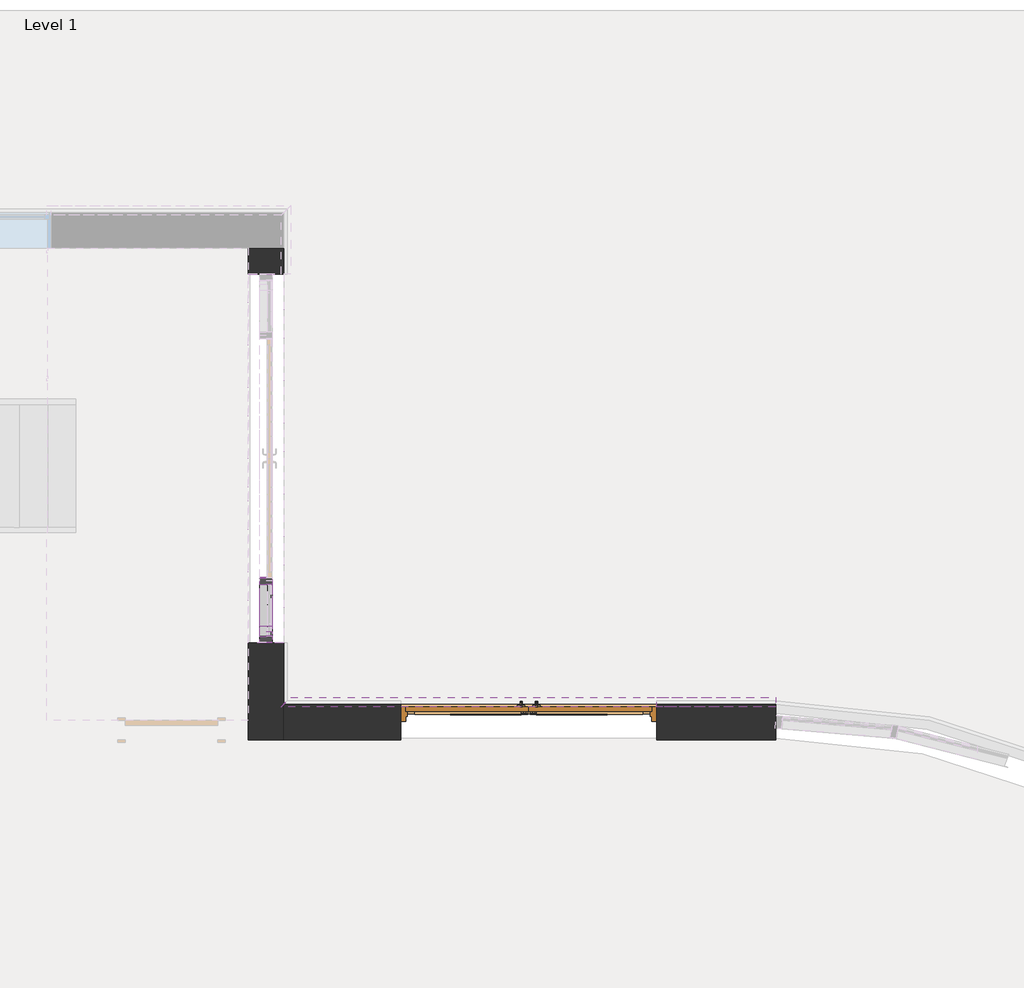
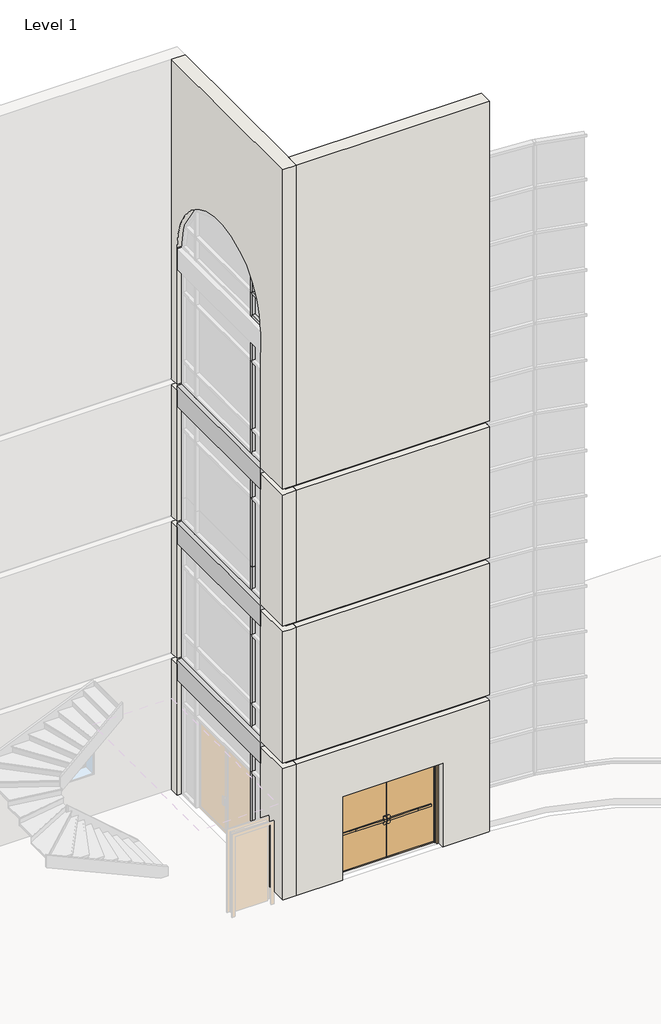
# One storey, part 11 of 20: 30 members, 3 plates, 3 proxies, 2 walls, 1 door.
"""IFC4 building model written with IfcOpenShell, lengths in millimetres."""

from ifc_helpers import new_model, si_unit, frame, origin, place, context, project, spatial, polyline, circle_curve, outline, extrude, faceted_brep, transform, mapped, element, save
from ifc_brep_helpers import plane_surface, revolved_surface, advanced_brep
from components import door_d5635643, member_f0fea5a5, member_ee409385, member_51170729, member_d60e8053, member_a025723f, member_aaa03826, member_47a645d3, member_cceb8e04, member_b7f7ac7a, member_94fbf6e3, member_0b7646a3, member_dad99500, member_2fae0574

model = new_model("IFC4")

# Units and contexts
model_context = context("Model", 3, world=origin())
ifc_project = project(units=[si_unit("LENGTHUNIT", "METRE", prefix="MILLI")], contexts=[model_context])

# Site, building, storey
site = spatial("IfcSite", under=ifc_project)
building = spatial("IfcBuilding", under=site)
storey = spatial("IfcBuildingStorey", under=building, Name="Level 1", Elevation=0.0)

# Proxies
placement = place(None, origin())
element("IfcBuildingElementProxy", 1, Name="Reveals", at=placement, inside=storey, context=model_context, shape_type="SweptSolid", body=[
    extrude(outline(polyline([(16760.0089721, 4783.9898319), (16760.0089721, 4876.0648319), (17937.9339721, 4876.0648319), (17937.9339721, 4783.9898319), (16760.0089721, 4783.9898319)])), frame((0.0, 0.0, 1625.6), z_axis=(0.0, 0.0, 1.0), x_axis=(1.0, 0.0, 0.0)), (0.0, 0.0, 1.0), 67.7333333),
    extrude(outline(polyline([(13035.7339721, 4783.9898319), (13127.8089721, 4876.0648319), (14220.0089721, 4876.0648319), (14220.0089721, 4783.9898319), (13035.7339721, 4783.9898319)])), frame((0.0, 0.0, 1625.6), z_axis=(0.0, 0.0, 1.0), x_axis=(1.0, 0.0, 0.0)), (0.0, 0.0, 1.0), 67.7333333),
])
element("IfcBuildingElementProxy", 2, Name="Reveals", at=placement, inside=storey, context=model_context, shape_type="SweptSolid", body=[
    extrude(outline(polyline([(13035.7339721, 4783.9898319), (13127.8089721, 4876.0648319), (17937.9339721, 4876.0648319), (17937.9339721, 4783.9898319), (13035.7339721, 4783.9898319)])), frame((0.0, 0.0, 2235.2), z_axis=(0.0, 0.0, 1.0), x_axis=(1.0, 0.0, 0.0)), (0.0, 0.0, 1.0), 67.7333333),
])
element("IfcBuildingElementProxy", 3, Name="Reveals", at=placement, inside=storey, context=model_context, shape_type="SweptSolid", body=[
    extrude(outline(polyline([(13035.7339721, 4783.9898319), (13127.8089721, 4876.0648319), (17937.9339721, 4876.0648319), (17937.9339721, 4783.9898319), (13035.7339721, 4783.9898319)])), frame((0.0, 0.0, 2844.8), z_axis=(0.0, 0.0, 1.0), x_axis=(1.0, 0.0, 0.0)), (0.0, 0.0, 1.0), 67.7333333),
])

# Door
door_shape = door_d5635643(model_context)
element("IfcDoor", 4, ObjectType="Door-Exterior-Double : 96\" x 84\"", at=placement, inside=storey, context=model_context, shape_type="MappedRepresentation", body=[
    mapped(door_shape, transform((15490.0089721, 4626.8273319, 0.0), x_axis=(1.0, 0.0, 0.0), y_axis=(0.0, 1.0, 0.0), z_axis=(0.0, 0.0, 1.0))),
])

# Members
member_shape = member_f0fea5a5(model_context)
element("IfcMember", 5, ObjectType="Rectangular Mullion : 2.5\" x 5\" rectangular", at=placement, inside=storey, context=model_context, shape_type="MappedRepresentation", body=[
    mapped(member_shape, transform((12884.9214721, 6028.5898319, 0.0), x_axis=(0.0, 1.0, 0.0), y_axis=(1.0, 0.0, 0.0), z_axis=(0.0, 0.0, -1.0))),
])
member_2_shape = member_ee409385(model_context)
element("IfcMember", 6, ObjectType="Rectangular Mullion : 2.5\" x 5\" rectangular", at=placement, inside=storey, context=model_context, shape_type="MappedRepresentation", body=[
    mapped(member_2_shape, transform((12884.9214721, 5418.9898319, 2438.4), x_axis=(0.0, -1.0, 0.0), y_axis=(1.0, 0.0, 0.0), z_axis=(0.0, 0.0, 1.0))),
])
member_3_shape = member_51170729(model_context)
element("IfcMember", 7, ObjectType="Rectangular Mullion : 2.5\" x 5\" rectangular", at=placement, inside=storey, context=model_context, shape_type="MappedRepresentation", body=[
    mapped(member_3_shape, transform((12884.9214721, 6028.5898319, 13411.2), x_axis=(0.0, 1.0, 0.0), y_axis=(1.0, 0.0, 0.0), z_axis=(0.0, 0.0, -1.0))),
])
element("IfcMember", 8, ObjectType="Rectangular Mullion : 2.5\" x 5\" rectangular", at=placement, inside=storey, context=model_context, shape_type="MappedRepresentation", body=[
    mapped(member_3_shape, transform((12884.9214721, 6028.5898319, 9753.6), x_axis=(0.0, 1.0, 0.0), y_axis=(1.0, 0.0, 0.0), z_axis=(0.0, 0.0, -1.0))),
])
element("IfcMember", 9, ObjectType="Rectangular Mullion : 2.5\" x 5\" rectangular", at=placement, inside=storey, context=model_context, shape_type="MappedRepresentation", body=[
    mapped(member_3_shape, transform((12884.9214721, 6028.5898319, 6096.0), x_axis=(0.0, 1.0, 0.0), y_axis=(1.0, 0.0, 0.0), z_axis=(0.0, 0.0, -1.0))),
])
element("IfcMember", 10, ObjectType="Rectangular Mullion : 2.5\" x 5\" rectangular", at=placement, inside=storey, context=model_context, shape_type="MappedRepresentation", body=[
    mapped(member_3_shape, transform((12884.9214721, 6028.5898319, 2438.4), x_axis=(0.0, 1.0, 0.0), y_axis=(1.0, 0.0, 0.0), z_axis=(0.0, 0.0, -1.0))),
])
member_4_shape = member_d60e8053(model_context)
element("IfcMember", 11, ObjectType="Rectangular Mullion : 2.5\" x 5\" rectangular", at=placement, inside=storey, context=model_context, shape_type="MappedRepresentation", body=[
    mapped(member_4_shape, transform((12884.9214721, 6028.5898319, 11582.4), x_axis=(0.0, 1.0, 0.0), y_axis=(1.0, 0.0, 0.0), z_axis=(0.0, 0.0, -1.0))),
])
element("IfcMember", 12, ObjectType="Rectangular Mullion : 2.5\" x 5\" rectangular", at=placement, inside=storey, context=model_context, shape_type="MappedRepresentation", body=[
    mapped(member_4_shape, transform((12884.9214721, 6028.5898319, 4267.2), x_axis=(0.0, 1.0, 0.0), y_axis=(1.0, 0.0, 0.0), z_axis=(0.0, 0.0, -1.0))),
])
element("IfcMember", 13, ObjectType="Rectangular Mullion : 2.5\" x 5\" rectangular", at=placement, inside=storey, context=model_context, shape_type="MappedRepresentation", body=[
    mapped(member_4_shape, transform((12884.9214721, 6028.5898319, 7924.8), x_axis=(0.0, 1.0, 0.0), y_axis=(1.0, 0.0, 0.0), z_axis=(0.0, 0.0, -1.0))),
])
element("IfcMember", 14, ObjectType="Rectangular Mullion : 2.5\" x 5\" rectangular", at=placement, inside=storey, context=model_context, shape_type="MappedRepresentation", body=[
    mapped(member_3_shape, transform((12884.9214721, 6028.5898319, 14598.65), x_axis=(0.0, 1.0, 0.0), y_axis=(1.0, 0.0, 0.0), z_axis=(0.0, 0.0, -1.0))),
])
element("IfcMember", 15, ObjectType="Rectangular Mullion : 2.5\" x 5\" rectangular", at=placement, inside=storey, context=model_context, shape_type="MappedRepresentation", body=[
    mapped(member_3_shape, transform((12884.9214721, 6028.5898319, 10941.05), x_axis=(0.0, 1.0, 0.0), y_axis=(1.0, 0.0, 0.0), z_axis=(0.0, 0.0, -1.0))),
])
element("IfcMember", 16, ObjectType="Rectangular Mullion : 2.5\" x 5\" rectangular", at=placement, inside=storey, context=model_context, shape_type="MappedRepresentation", body=[
    mapped(member_3_shape, transform((12884.9214721, 6028.5898319, 3625.85), x_axis=(0.0, 1.0, 0.0), y_axis=(1.0, 0.0, 0.0), z_axis=(0.0, 0.0, -1.0))),
])
element("IfcMember", 17, ObjectType="Rectangular Mullion : 2.5\" x 5\" rectangular", at=placement, inside=storey, context=model_context, shape_type="MappedRepresentation", body=[
    mapped(member_3_shape, transform((12884.9214721, 6028.5898319, 7283.45), x_axis=(0.0, 1.0, 0.0), y_axis=(1.0, 0.0, 0.0), z_axis=(0.0, 0.0, -1.0))),
])
member_5_shape = member_a025723f(model_context)
element("IfcMember", 18, ObjectType="Rectangular Mullion : 2.5\" x 5\" rectangular", at=placement, inside=storey, context=model_context, shape_type="MappedRepresentation", body=[
    mapped(member_5_shape, transform((12884.9214721, 6028.5898319, 15240.0), x_axis=(0.0, 1.0, 0.0), y_axis=(1.0, 0.0, 0.0), z_axis=(0.0, 0.0, -1.0))),
])
member_6_shape = member_aaa03826(model_context)
element("IfcMember", 19, ObjectType="Rectangular Mullion : 2.5\" x 5\" rectangular", at=placement, inside=storey, context=model_context, shape_type="MappedRepresentation", body=[
    mapped(member_6_shape, transform((12884.9214721, 5996.8398319, 14020.8), x_axis=(0.0, 0.0, 1.0), y_axis=(1.0, 0.0, 0.0), z_axis=(0.0, 1.0, 0.0))),
])
member_7_shape = member_47a645d3(model_context)
element("IfcMember", 20, ObjectType="Rectangular Mullion : 2.5\" x 5\" rectangular", at=placement, inside=storey, context=model_context, shape_type="MappedRepresentation", body=[
    mapped(member_7_shape, transform((12884.9214721, 5996.8398319, 14630.4), x_axis=(0.0, 0.0, 1.0), y_axis=(1.0, 0.0, 0.0), z_axis=(0.0, 1.0, 0.0))),
])
member_8_shape = member_cceb8e04(model_context)
element("IfcMember", 21, ObjectType="Rectangular Mullion : 2.5\" x 5\" rectangular", at=placement, inside=storey, context=model_context, shape_type="MappedRepresentation", body=[
    mapped(member_8_shape, transform((12884.9214721, 5996.8398319, 15240.0), x_axis=(0.0, 0.0, 1.0), y_axis=(1.0, 0.0, 0.0), z_axis=(0.0, 1.0, 0.0))),
])
member_9_shape = member_b7f7ac7a(model_context)
element("IfcMember", 22, ObjectType="Rectangular Mullion : 2.5\" x 5\" rectangular", at=placement, inside=storey, context=model_context, shape_type="MappedRepresentation", body=[
    mapped(member_9_shape, transform((12884.9214721, 5523.5806567, 15240.0), x_axis=(0.0, -0.9428090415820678, 0.33333333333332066), y_axis=(1.0, 0.0, 0.0), z_axis=(0.0, 0.33333333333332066, 0.9428090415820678))),
])
member_10_shape = member_94fbf6e3(model_context)
element("IfcMember", 23, ObjectType="Rectangular Mullion : 2.5\" x 5\" rectangular", at=placement, inside=storey, context=model_context, shape_type="MappedRepresentation", body=[
    mapped(member_10_shape, transform((12884.9214721, 6028.5898319, 15993.5070391), x_axis=(0.0, -0.6666666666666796, 0.7453559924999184), y_axis=(1.0, 0.0, 0.0), z_axis=(0.0, 0.7453559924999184, 0.6666666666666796))),
])
member_11_shape = member_0b7646a3(model_context)
element("IfcMember", 24, ObjectType="Rectangular Mullion : 2.5\" x 5\" rectangular", at=placement, inside=storey, context=model_context, shape_type="MappedRepresentation", body=[
    mapped(member_11_shape, transform((12884.9214721, 5482.4898319, 0.0), x_axis=(0.0, 0.0, -1.0), y_axis=(1.0, 0.0, 0.0), z_axis=(0.0, -1.0, 0.0))),
])
member_12_shape = member_dad99500(model_context)
element("IfcMember", 25, ObjectType="Rectangular Mullion : 2.5\" x 5\" rectangular", at=placement, inside=storey, context=model_context, shape_type="MappedRepresentation", body=[
    mapped(member_12_shape, transform((12884.9214721, 5418.9898319, 11582.4), x_axis=(0.0, -1.0, 0.0), y_axis=(1.0, 0.0, 0.0), z_axis=(0.0, 0.0, 1.0))),
])
element("IfcMember", 26, ObjectType="Rectangular Mullion : 2.5\" x 5\" rectangular", at=placement, inside=storey, context=model_context, shape_type="MappedRepresentation", body=[
    mapped(member_12_shape, transform((12884.9214721, 5418.9898319, 4267.2), x_axis=(0.0, -1.0, 0.0), y_axis=(1.0, 0.0, 0.0), z_axis=(0.0, 0.0, 1.0))),
])
member_13_shape = member_2fae0574(model_context)
element("IfcMember", 27, ObjectType="Rectangular Mullion : 2.5\" x 5\" rectangular", at=placement, inside=storey, context=model_context, shape_type="MappedRepresentation", body=[
    mapped(member_13_shape, transform((12884.9214721, 5418.9898319, 13411.2), x_axis=(0.0, -1.0, 0.0), y_axis=(1.0, 0.0, 0.0), z_axis=(0.0, 0.0, 1.0))),
])
element("IfcMember", 28, ObjectType="Rectangular Mullion : 2.5\" x 5\" rectangular", at=placement, inside=storey, context=model_context, shape_type="MappedRepresentation", body=[
    mapped(member_13_shape, transform((12884.9214721, 5418.9898319, 6096.0), x_axis=(0.0, -1.0, 0.0), y_axis=(1.0, 0.0, 0.0), z_axis=(0.0, 0.0, 1.0))),
])
element("IfcMember", 29, ObjectType="Rectangular Mullion : 2.5\" x 5\" rectangular", at=placement, inside=storey, context=model_context, shape_type="MappedRepresentation", body=[
    mapped(member_12_shape, transform((12884.9214721, 5418.9898319, 14052.55), x_axis=(0.0, -1.0, 0.0), y_axis=(1.0, 0.0, 0.0), z_axis=(0.0, 0.0, 1.0))),
])
element("IfcMember", 30, ObjectType="Rectangular Mullion : 2.5\" x 5\" rectangular", at=placement, inside=storey, context=model_context, shape_type="MappedRepresentation", body=[
    mapped(member_12_shape, transform((12884.9214721, 5418.9898319, 10394.95), x_axis=(0.0, -1.0, 0.0), y_axis=(1.0, 0.0, 0.0), z_axis=(0.0, 0.0, 1.0))),
])
element("IfcMember", 31, ObjectType="Rectangular Mullion : 2.5\" x 5\" rectangular", at=placement, inside=storey, context=model_context, shape_type="MappedRepresentation", body=[
    mapped(member_12_shape, transform((12884.9214721, 5418.9898319, 6737.35), x_axis=(0.0, -1.0, 0.0), y_axis=(1.0, 0.0, 0.0), z_axis=(0.0, 0.0, 1.0))),
])
element("IfcMember", 32, ObjectType="Rectangular Mullion : 2.5\" x 5\" rectangular", at=placement, inside=storey, context=model_context, shape_type="MappedRepresentation", body=[
    mapped(member_12_shape, transform((12884.9214721, 5418.9898319, 3079.75), x_axis=(0.0, -1.0, 0.0), y_axis=(1.0, 0.0, 0.0), z_axis=(0.0, 0.0, 1.0))),
])
element("IfcMember", 33, ObjectType="Rectangular Mullion : 2.5\" x 5\" rectangular", at=placement, inside=storey, context=model_context, shape_type="MappedRepresentation", body=[
    mapped(member_12_shape, transform((12884.9214721, 5418.9898319, 7924.8), x_axis=(0.0, -1.0, 0.0), y_axis=(1.0, 0.0, 0.0), z_axis=(0.0, 0.0, 1.0))),
])
element("IfcMember", 34, ObjectType="Rectangular Mullion : 2.5\" x 5\" rectangular", at=placement, inside=storey, context=model_context, shape_type="MappedRepresentation", body=[
    mapped(member_13_shape, transform((12884.9214721, 5418.9898319, 9753.6), x_axis=(0.0, -1.0, 0.0), y_axis=(1.0, 0.0, 0.0), z_axis=(0.0, 0.0, 1.0))),
])

# Plates
element("IfcPlate", 35, ObjectType="Exterior - Brick on Mtl. Stud", at=placement, inside=storey, context=model_context, shape_type="SweptSolid", body=[
    extrude(outline(polyline([(13061.1339721, 9076.5898319), (13061.1339721, 5418.9898319), (12708.7089721, 5418.9898319), (12708.7089721, 9076.5898319), (13061.1339721, 9076.5898319)])), frame((0.0, 0.0, 3079.75), z_axis=(0.0, 0.0, 1.0), x_axis=(1.0, 0.0, 0.0)), (0.0, 0.0, 1.0), 546.1),
])
element("IfcPlate", 36, ObjectType="Exterior - Brick on Mtl. Stud", at=placement, inside=storey, context=model_context, shape_type="SweptSolid", body=[
    extrude(outline(polyline([(13061.1339721, 9076.5898319), (13061.1339721, 5418.9898319), (12708.7089721, 5418.9898319), (12708.7089721, 9076.5898319), (13061.1339721, 9076.5898319)])), frame((0.0, 0.0, 6737.35), z_axis=(0.0, 0.0, 1.0), x_axis=(1.0, 0.0, 0.0)), (0.0, 0.0, 1.0), 546.1),
])
element("IfcPlate", 37, ObjectType="Exterior - Brick on Mtl. Stud", at=placement, inside=storey, context=model_context, shape_type="SweptSolid", body=[
    extrude(outline(polyline([(13061.1339721, 9076.5898319), (13061.1339721, 5418.9898319), (12708.7089721, 5418.9898319), (12708.7089721, 9076.5898319), (13061.1339721, 9076.5898319)])), frame((0.0, 0.0, 10394.95), z_axis=(0.0, 0.0, 1.0), x_axis=(1.0, 0.0, 0.0)), (0.0, 0.0, 1.0), 546.1),
])

# Walls
element("IfcWall", 38, ObjectType="Exterior - Brick and CMU on MTL. Stud", at=placement, inside=storey, context=model_context, shape_type="AdvancedBrep", body=[
    advanced_brep(
    [(12708.7089721, 4456.9648319, 19507.2), (12708.7089721, 9333.7648319, 19507.2), (12708.7089721, 9333.7648319, 10972.8), (12708.7089721, 9076.5898319, 10972.8), (12708.7089721, 9076.5898319, 14630.4), (12708.7089721, 5418.9898319, 14630.4), (12708.7089721, 5418.9898319, 10972.8), (12708.7089721, 4456.9648319, 10972.8), (12708.7089721, 4456.9648319, 18288.0), (12708.7089721, 9333.7648319, 3505.2), (12708.7089721, 9333.7648319, 0.0), (12708.7089721, 9076.5898319, 0.0), (12708.7089721, 9076.5898319, 3505.2), (12708.7089721, 9333.7648319, 3657.6), (12708.7089721, 9076.5898319, 3657.6), (12708.7089721, 9076.5898319, 7162.8), (12708.7089721, 9333.7648319, 7162.8), (12708.7089721, 9333.7648319, 7315.2), (12708.7089721, 9076.5898319, 7315.2), (12708.7089721, 9076.5898319, 10820.4), (12708.7089721, 9333.7648319, 10820.4), (12708.7089721, 4456.9648319, 0.0), (12708.7089721, 4456.9648319, 3505.2), (12708.7089721, 5418.9898319, 3505.2), (12708.7089721, 5418.9898319, 0.0), (12708.7089721, 4650.6398319, 0.0), (12708.7089721, 4456.9648319, 3657.6), (12708.7089721, 4456.9648319, 3682.9357457), (12708.7089721, 4456.9648319, 3797.3642543), (12708.7089721, 4456.9648319, 3841.75), (12708.7089721, 4456.9648319, 4419.6), (12708.7089721, 4456.9648319, 4436.9982457), (12708.7089721, 4456.9648319, 4541.9017543), (12708.7089721, 4456.9648319, 4559.3), (12708.7089721, 4456.9648319, 5984.875), (12708.7089721, 4456.9648319, 6009.4104193), (12708.7089721, 4456.9648319, 7162.8), (12708.7089721, 5418.9898319, 7162.8), (12708.7089721, 5418.9898319, 3657.6), (12708.7089721, 5418.9898319, 7315.2), (12708.7089721, 4456.9648319, 7315.2), (12708.7089721, 4456.9648319, 10820.4), (12708.7089721, 5418.9898319, 10820.4), (13061.1339721, 9076.5898319, 1693.3333333), (13061.1339721, 9333.7648319, 1693.3333333), (13061.1339721, 9333.7648319, 2235.2), (13061.1339721, 9076.5898319, 2235.2), (13061.1339721, 9333.7648319, 1625.6), (13061.1339721, 9076.5898319, 1625.6), (13061.1339721, 9076.5898319, 1085.85), (13061.1339721, 9333.7648319, 1085.85), (13061.1339721, 9076.5898319, 2302.9333333), (13061.1339721, 9333.7648319, 2302.9333333), (13061.1339721, 9333.7648319, 2844.8), (13061.1339721, 9076.5898319, 2844.8), (13061.1339721, 9333.7648319, 0.0), (13061.1339721, 9333.7648319, 1016.0), (13061.1339721, 9076.5898319, 1016.0), (13061.1339721, 9076.5898319, 0.0), (13061.1339721, 9333.7648319, 19507.2), (13061.1339721, 4809.3898319, 19507.2), (13061.1339721, 4456.9648319, 19507.2), (13061.1339721, 4456.9648319, 10972.8), (13061.1339721, 4622.0648319, 10972.8), (13061.1339721, 4622.0648319, 10820.4), (13061.1339721, 4456.9648319, 10820.4), (13061.1339721, 4456.9648319, 7315.2), (13061.1339721, 4622.0648319, 7315.2), (13061.1339721, 4622.0648319, 7162.8), (13061.1339721, 4456.9648319, 7162.8), (13061.1339721, 4456.9648319, 3657.6), (13061.1339721, 4622.0648319, 3657.6), (13061.1339721, 4622.0648319, 3505.2), (13061.1339721, 4456.9648319, 3505.2), (13061.1339721, 4456.9648319, 0.0), (13061.1339721, 4809.3898319, 0.0), (13061.1339721, 5418.9898319, 0.0), (13061.1339721, 5418.9898319, 1016.0), (13061.1339721, 4809.3898319, 1016.0), (13061.1339721, 4717.3148319, 1016.0), (13061.1339721, 4717.3148319, 1085.85), (13061.1339721, 4809.3898319, 1085.85), (13061.1339721, 5418.9898319, 1085.85), (13061.1339721, 5418.9898319, 1625.6), (13061.1339721, 4809.3898319, 1625.6), (13061.1339721, 4783.9898319, 1625.6), (13061.1339721, 4783.9898319, 1693.3333333), (13061.1339721, 4809.3898319, 1693.3333333), (13061.1339721, 5418.9898319, 1693.3333333), (13061.1339721, 5418.9898319, 2235.2), (13061.1339721, 4809.3898319, 2235.2), (13061.1339721, 4783.9898319, 2235.2), (13061.1339721, 4783.9898319, 2302.9333333), (13061.1339721, 4809.3898319, 2302.9333333), (13061.1339721, 5418.9898319, 2302.9333333), (13061.1339721, 5418.9898319, 2844.8), (13061.1339721, 4809.3898319, 2844.8), (13061.1339721, 4783.9898319, 2844.8), (13061.1339721, 4783.9898319, 2912.5333333), (13061.1339721, 4809.3898319, 2912.5333333), (13061.1339721, 5418.9898319, 2912.5333333), (13061.1339721, 5418.9898319, 14630.4), (13061.1339721, 9076.5898319, 14630.4), (13061.1339721, 9076.5898319, 2912.5333333), (13061.1339721, 9333.7648319, 2912.5333333), (13061.1339721, 9333.7648319, 19100.8), (13061.1339721, 4809.3898319, 19100.8), (13061.1339721, 4717.3148319, 19100.8), (13061.1339721, 4717.3148319, 19304.0), (13061.1339721, 4809.3898319, 19304.0), (13061.1339721, 9333.7648319, 19304.0), (12969.0589721, 9333.7648319, 0.0), (12969.0589721, 9076.5898319, 0.0), (12969.0589721, 4456.9648319, 0.0), (12969.0589721, 5418.9898319, 0.0), (13035.7339721, 4783.9898319, 1693.3333333), (13035.7339721, 5418.9898319, 1693.3333333), (13035.7339721, 5418.9898319, 1625.6), (13035.7339721, 4783.9898319, 1625.6), (13035.7339721, 4783.9898319, 2302.9333333), (13035.7339721, 5418.9898319, 2302.9333333), (13035.7339721, 5418.9898319, 2235.2), (13035.7339721, 4783.9898319, 2235.2), (13035.7339721, 4783.9898319, 2912.5333333), (13035.7339721, 5418.9898319, 2912.5333333), (13035.7339721, 5418.9898319, 2844.8), (13035.7339721, 4783.9898319, 2844.8), (12969.0589721, 4717.3148319, 1085.85), (12969.0589721, 5418.9898319, 1085.85), (12969.0589721, 5418.9898319, 1016.0), (12969.0589721, 4717.3148319, 1016.0), (12969.0589721, 4717.3148319, 19100.8), (12969.0589721, 9333.7648319, 19100.8), (12969.0589721, 9333.7648319, 19304.0), (12969.0589721, 4717.3148319, 19304.0), (13035.7339721, 9333.7648319, 2912.5333333), (13035.7339721, 9333.7648319, 2844.8), (13035.7339721, 9333.7648319, 2302.9333333), (13035.7339721, 9333.7648319, 2235.2), (13035.7339721, 9333.7648319, 1693.3333333), (13035.7339721, 9333.7648319, 1625.6), (12969.0589721, 9333.7648319, 1085.85), (12969.0589721, 9333.7648319, 1016.0), (12873.8089721, 9333.7648319, 3505.2), (12873.8089721, 9333.7648319, 3657.6), (12873.8089721, 9333.7648319, 7162.8), (12873.8089721, 9333.7648319, 7315.2), (12873.8089721, 9333.7648319, 10820.4), (12873.8089721, 9333.7648319, 10972.8), (13035.7339721, 9076.5898319, 1693.3333333), (13035.7339721, 9076.5898319, 1625.6), (13035.7339721, 9076.5898319, 2302.9333333), (13035.7339721, 9076.5898319, 2235.2), (13035.7339721, 9076.5898319, 2912.5333333), (13035.7339721, 9076.5898319, 2844.8), (12969.0589721, 9076.5898319, 1085.85), (12969.0589721, 9076.5898319, 1016.0), (12873.8089721, 9076.5898319, 3505.2), (12873.8089721, 4622.0648319, 3505.2), (12873.8089721, 5418.9898319, 3505.2), (12873.8089721, 9076.5898319, 3657.6), (12873.8089721, 4622.0648319, 3657.6), (12898.1548084, 4456.9648319, 3657.6), (12873.8089721, 5418.9898319, 3657.6), (12873.8089721, 9076.5898319, 7162.8), (12873.8089721, 4622.0648319, 7162.8), (12873.8089721, 5418.9898319, 7162.8), (12898.1548084, 4456.9648319, 7162.8), (12873.8089721, 9076.5898319, 7315.2), (12873.8089721, 4622.0648319, 7315.2), (12873.8089721, 5418.9898319, 7315.2), (12873.8089721, 4622.0648319, 10820.4), (12873.8089721, 5418.9898319, 10820.4), (12873.8089721, 9076.5898319, 10820.4), (12873.8089721, 5418.9898319, 10972.8), (12873.8089721, 4622.0648319, 10972.8), (12873.8089721, 9076.5898319, 10972.8)],
    [
        (0, 1),
        (1, 2),
        (2, 3),
        (3, 4),
        (4, 5, circle_curve(frame((12708.7089721, 7247.7898319, 14630.4), z_axis=(1.0, 0.0, 0.0), x_axis=(0.0, -1.0, 0.0)), 1828.8)),
        (5, 6),
        (6, 7),
        (7, 8),
        (8, 0),
        (9, 10),
        (10, 11),
        (11, 12),
        (12, 9),
        (13, 14),
        (14, 15),
        (15, 16),
        (16, 13),
        (17, 18),
        (18, 19),
        (19, 20),
        (20, 17),
        (21, 22),
        (22, 23),
        (23, 24),
        (24, 25),
        (25, 21),
        (26, 27),
        (27, 28),
        (28, 29),
        (29, 30),
        (30, 31),
        (31, 32),
        (32, 33),
        (33, 34),
        (34, 35),
        (35, 36),
        (36, 37),
        (37, 38),
        (38, 26),
        (39, 40),
        (40, 41),
        (41, 42),
        (42, 39),
        (43, 44),
        (44, 45),
        (45, 46),
        (46, 43),
        (47, 48),
        (48, 49),
        (49, 50),
        (50, 47),
        (51, 52),
        (52, 53),
        (53, 54),
        (54, 51),
        (55, 56),
        (56, 57),
        (57, 58),
        (58, 55),
        (59, 60),
        (60, 61),
        (61, 62),
        (62, 63),
        (63, 64),
        (64, 65),
        (65, 66),
        (66, 67),
        (67, 68),
        (68, 69),
        (69, 70),
        (70, 71),
        (71, 72),
        (72, 73),
        (73, 74),
        (74, 75),
        (75, 76),
        (76, 77),
        (77, 78),
        (78, 79),
        (79, 80),
        (80, 81),
        (81, 82),
        (82, 83),
        (83, 84),
        (84, 85),
        (85, 86),
        (86, 87),
        (87, 88),
        (88, 89),
        (89, 90),
        (90, 91),
        (91, 92),
        (92, 93),
        (93, 94),
        (94, 95),
        (95, 96),
        (96, 97),
        (97, 98),
        (98, 99),
        (99, 100),
        (100, 101),
        (101, 102, circle_curve(frame((13061.1339721, 7247.7898319, 14630.4), z_axis=(-1.0, 0.0, 0.0), x_axis=(0.0, -1.0, 0.0)), 1828.8)),
        (102, 103),
        (103, 104),
        (104, 105),
        (105, 106),
        (106, 107),
        (107, 108),
        (108, 109),
        (109, 110),
        (110, 59),
        (0, 61),
        (59, 1),
        (10, 111),
        (111, 112),
        (112, 11),
        (113, 21),
        (24, 114),
        (114, 113),
        (115, 116),
        (116, 88),
        (86, 115),
        (117, 118),
        (118, 85),
        (83, 117),
        (115, 118),
        (117, 116),
        (119, 120),
        (120, 94),
        (92, 119),
        (121, 122),
        (122, 91),
        (89, 121),
        (119, 122),
        (121, 120),
        (123, 124),
        (124, 100),
        (98, 123),
        (125, 126),
        (126, 97),
        (95, 125),
        (123, 126),
        (125, 124),
        (127, 128),
        (128, 82),
        (80, 127),
        (129, 130),
        (130, 79),
        (77, 129),
        (127, 130),
        (129, 128),
        (131, 132),
        (132, 133),
        (133, 134),
        (134, 131),
        (110, 133),
        (132, 105),
        (104, 135),
        (135, 136),
        (136, 53),
        (52, 137),
        (137, 138),
        (138, 45),
        (44, 139),
        (139, 140),
        (140, 47),
        (50, 141),
        (141, 142),
        (142, 56),
        (55, 111),
        (9, 143),
        (143, 144),
        (144, 13),
        (16, 145),
        (145, 146),
        (146, 17),
        (20, 147),
        (147, 148),
        (148, 2),
        (58, 112),
        (74, 113),
        (114, 76),
        (43, 149),
        (149, 139),
        (140, 150),
        (150, 48),
        (51, 151),
        (151, 137),
        (138, 152),
        (152, 46),
        (103, 153),
        (153, 135),
        (136, 154),
        (154, 54),
        (49, 155),
        (155, 141),
        (142, 156),
        (156, 57),
        (131, 107),
        (108, 134),
        (12, 157),
        (157, 143),
        (72, 158),
        (158, 159),
        (159, 23),
        (22, 73),
        (144, 160),
        (160, 14),
        (161, 71),
        (70, 162),
        (162, 26),
        (38, 163),
        (163, 161),
        (157, 160),
        (158, 161),
        (163, 159),
        (15, 164),
        (164, 145),
        (68, 165),
        (165, 166),
        (166, 37),
        (36, 167),
        (167, 69),
        (146, 168),
        (168, 18),
        (169, 67),
        (66, 40),
        (39, 170),
        (170, 169),
        (164, 168),
        (165, 169),
        (170, 166),
        (64, 171),
        (171, 172),
        (172, 42),
        (41, 65),
        (173, 147),
        (19, 173),
        (174, 175),
        (175, 63),
        (62, 7),
        (6, 174),
        (148, 176),
        (176, 3),
        (171, 175),
        (174, 172),
        (173, 176),
        (5, 101),
        (4, 102),
        (156, 155),
        (150, 149),
        (152, 151),
        (154, 153),
    ],
    [
        plane_surface(frame((12708.7089721, 9686.1898319, 0.0), z_axis=(-1.0, 0.0, 0.0), x_axis=(0.0, -1.0, 0.0))),
        plane_surface(frame((13061.1339721, 9686.1898319, 0.0), z_axis=(1.0, 0.0, 0.0), x_axis=(0.0, 1.0, 0.0))),
        plane_surface(frame((12708.7089721, 4553.8023319, 19507.2), z_axis=(0.0, 0.0, 1.0), x_axis=(1.0, 0.0, 0.0))),
        plane_surface(frame((12708.7089721, 9509.9773319, 0.0), z_axis=(0.0, 0.0, -1.0), x_axis=(1.0, 0.0, 0.0))),
        plane_surface(frame((13035.7339721, 5418.9898319, 1693.3333333), z_axis=(0.0, 0.0, -1.0), x_axis=(0.0, -1.0, 0.0))),
        plane_surface(frame((13127.8089721, 5418.9898319, 1625.6), z_axis=(0.0, 0.0, 1.0), x_axis=(0.0, -1.0, 0.0))),
        plane_surface(frame((13035.7339721, 5418.9898319, 1625.6), z_axis=(1.0, 0.0, 0.0), x_axis=(0.0, -1.0, 0.0))),
        plane_surface(frame((13035.7339721, 5418.9898319, 2302.9333333), z_axis=(0.0, 0.0, -1.0), x_axis=(0.0, -1.0, 0.0))),
        plane_surface(frame((13127.8089721, 5418.9898319, 2235.2), z_axis=(0.0, 0.0, 1.0), x_axis=(0.0, -1.0, 0.0))),
        plane_surface(frame((13035.7339721, 5418.9898319, 2235.2), z_axis=(1.0, 0.0, 0.0), x_axis=(0.0, -1.0, 0.0))),
        plane_surface(frame((13035.7339721, 5418.9898319, 2912.5333333), z_axis=(0.0, 0.0, -1.0), x_axis=(0.0, -1.0, 0.0))),
        plane_surface(frame((13127.8089721, 5418.9898319, 2844.8), z_axis=(0.0, 0.0, 1.0), x_axis=(0.0, -1.0, 0.0))),
        plane_surface(frame((13035.7339721, 5418.9898319, 2844.8), z_axis=(1.0, 0.0, 0.0), x_axis=(0.0, -1.0, 0.0))),
        plane_surface(frame((12969.0589721, 5418.9898319, 1085.85), z_axis=(0.0, 0.0, -1.0), x_axis=(0.0, -1.0, 0.0))),
        plane_surface(frame((13096.0589721, 5418.9898319, 1016.0), z_axis=(0.0, 0.0, 1.0), x_axis=(0.0, -1.0, 0.0))),
        plane_surface(frame((12969.0589721, 5418.9898319, 1016.0), z_axis=(1.0, 0.0, 0.0), x_axis=(0.0, -1.0, 0.0))),
        plane_surface(frame((12969.0589721, 9594.1148319, 19100.8), z_axis=(1.0, 0.0, 0.0), x_axis=(0.0, -1.0, 0.0))),
        plane_surface(frame((-17418.8660279, 9333.7648319, 0.0), z_axis=(0.0, 1.0, 0.0), x_axis=(1.0, 0.0, 0.0))),
        plane_surface(frame((0.0, 0.0, 0.0), z_axis=(0.0, 0.0, -1.0), x_axis=(1.0, 0.0, 0.0))),
        plane_surface(frame((10753.1735554, 9660.7898319, 1693.3333333), z_axis=(0.0, 0.0, -1.0), x_axis=(1.0, 0.0, 0.0))),
        plane_surface(frame((10753.1735554, 9752.8648319, 1625.6), z_axis=(0.0, 0.0, 1.0), x_axis=(1.0, 0.0, 0.0))),
        plane_surface(frame((10753.1735554, 9660.7898319, 2302.9333333), z_axis=(0.0, 0.0, -1.0), x_axis=(1.0, 0.0, 0.0))),
        plane_surface(frame((10753.1735554, 9752.8648319, 2235.2), z_axis=(0.0, 0.0, 1.0), x_axis=(1.0, 0.0, 0.0))),
        plane_surface(frame((-17418.8660279, 9660.7898319, 2912.5333333), z_axis=(0.0, 0.0, -1.0), x_axis=(1.0, 0.0, 0.0))),
        plane_surface(frame((-17418.8660279, 9752.8648319, 2844.8), z_axis=(0.0, 0.0, 1.0), x_axis=(1.0, 0.0, 0.0))),
        plane_surface(frame((-17418.8660279, 9594.1148319, 1085.85), z_axis=(0.0, 0.0, -1.0), x_axis=(1.0, 0.0, 0.0))),
        plane_surface(frame((-17418.8660279, 9721.1148319, 1016.0), z_axis=(0.0, 0.0, 1.0), x_axis=(1.0, 0.0, 0.0))),
        plane_surface(frame((-17418.8660279, 9686.1898319, 19100.8), z_axis=(0.0, 0.0, 1.0), x_axis=(1.0, 0.0, 0.0))),
        plane_surface(frame((-17418.8660279, 9594.1148319, 19304.0), z_axis=(0.0, 0.0, -1.0), x_axis=(1.0, 0.0, 0.0))),
        plane_surface(frame((12969.0589721, 4717.3148319, 19100.8), z_axis=(0.0, 1.0, 0.0), x_axis=(1.0, 0.0, 0.0))),
        plane_surface(frame((-13408.8410279, -9522.5601681, 3505.2), z_axis=(0.0, 0.0, 1.0), x_axis=(1.0, 0.0, 0.0))),
        plane_surface(frame((-13408.8410279, -9522.5601681, 3657.6), z_axis=(0.0, 0.0, -1.0), x_axis=(-1.0, 0.0, 0.0))),
        plane_surface(frame((12873.8089721, 9498.8648319, 3505.2), z_axis=(-1.0, 0.0, 0.0), x_axis=(0.0, 0.0, 1.0))),
        plane_surface(frame((12873.8089721, 4622.0648319, 3505.2), z_axis=(0.0, -1.0, 0.0), x_axis=(0.0, 0.0, 1.0))),
        plane_surface(frame((-17231.5410279, 9498.8648319, 7162.8), z_axis=(0.0, 0.0, 1.0), x_axis=(1.0, 0.0, 0.0))),
        plane_surface(frame((-17231.5410279, 9498.8648319, 7315.2), z_axis=(0.0, 0.0, -1.0), x_axis=(-1.0, 0.0, 0.0))),
        plane_surface(frame((12873.8089721, 9498.8648319, 7162.8), z_axis=(-1.0, 0.0, 0.0), x_axis=(0.0, 0.0, 1.0))),
        plane_surface(frame((12873.8089721, 4622.0648319, 7162.8), z_axis=(0.0, -1.0, 0.0), x_axis=(0.0, 0.0, 1.0))),
        plane_surface(frame((-17231.5410279, 9498.8648319, 10820.4), z_axis=(0.0, 0.0, 1.0), x_axis=(1.0, 0.0, 0.0))),
        plane_surface(frame((-17231.5410279, 9498.8648319, 10972.8), z_axis=(0.0, 0.0, -1.0), x_axis=(-1.0, 0.0, 0.0))),
        plane_surface(frame((12873.8089721, 9498.8648319, 10820.4), z_axis=(-1.0, 0.0, 0.0), x_axis=(0.0, 0.0, 1.0))),
        plane_surface(frame((12873.8089721, 4622.0648319, 10820.4), z_axis=(0.0, -1.0, 0.0), x_axis=(0.0, 0.0, 1.0))),
        plane_surface(frame((13061.1339721, 4456.9648319, 0.0), z_axis=(0.0, -1.0, 0.0), x_axis=(1.0, 0.0, 0.0))),
        plane_surface(frame((12556.3089721, 5418.9898319, 0.0), z_axis=(0.0, 1.0, 0.0), x_axis=(1.0, 0.0, 0.0))),
        revolved_surface(polyline([(12708.7089721, 5418.989831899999, 14630.4), (13061.1339721, 5418.989831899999, 14630.4)]), (12872.2214721, 7247.7898319, 14630.4), (-1.0, 0.0, 0.0)),
        plane_surface(frame((12556.3089721, 9076.5898319, 14630.4), z_axis=(0.0, -1.0, 0.0), x_axis=(1.0, 0.0, 0.0))),
        plane_surface(frame((13035.7339721, 9660.7898319, 1625.6), z_axis=(1.0, 0.0, 0.0), x_axis=(0.0, -1.0, 0.0))),
        plane_surface(frame((13035.7339721, 4783.9898319, 1625.6), z_axis=(0.0, 1.0, 0.0), x_axis=(1.0, 0.0, 0.0))),
        plane_surface(frame((13035.7339721, 9660.7898319, 2235.2), z_axis=(1.0, 0.0, 0.0), x_axis=(0.0, -1.0, 0.0))),
        plane_surface(frame((13035.7339721, 4783.9898319, 2235.2), z_axis=(0.0, 1.0, 0.0), x_axis=(1.0, 0.0, 0.0))),
        plane_surface(frame((13035.7339721, 9660.7898319, 2844.8), z_axis=(1.0, 0.0, 0.0), x_axis=(0.0, -1.0, 0.0))),
        plane_surface(frame((13035.7339721, 4783.9898319, 2844.8), z_axis=(0.0, 1.0, 0.0), x_axis=(1.0, 0.0, 0.0))),
        plane_surface(frame((12969.0589721, 9594.1148319, 1016.0), z_axis=(1.0, 0.0, 0.0), x_axis=(0.0, -1.0, 0.0))),
        plane_surface(frame((12969.0589721, 4717.3148319, 1016.0), z_axis=(0.0, 1.0, 0.0), x_axis=(1.0, 0.0, 0.0))),
    ],
    [
        (0, [[1, 2, 3, 4, 5, 6, 7, 8, 9]]),
        (0, [[10, 11, 12, 13]]),
        (0, [[14, 15, 16, 17]]),
        (0, [[18, 19, 20, 21]]),
        (0, [[22, 23, 24, 25, 26]]),
        (0, [[27, 28, 29, 30, 31, 32, 33, 34, 35, 36, 37, 38, 39]]),
        (0, [[40, 41, 42, 43]]),
        (1, [[44, 45, 46, 47]]),
        (1, [[48, 49, 50, 51]]),
        (1, [[52, 53, 54, 55]]),
        (1, [[56, 57, 58, 59]]),
        (1, [[60, 61, 62, 63, 64, 65, 66, 67, 68, 69, 70, 71, 72, 73, 74, 75, 76, 77, 78, 79, 80, 81, 82, 83, 84, 85, 86, 87, 88, 89, 90, 91, 92, 93, 94, 95, 96, 97, 98, 99, 100, 101, 102, 103, 104, 105, 106, 107, 108, 109, 110, 111]]),
        (2, [[-1, 112, -61, -60, 113]]),
        (3, [[114, 115, 116, -11]]),
        (3, [[117, -26, -25, 118, 119]]),
        (4, [[120, 121, -88, -87, 122]]),
        (5, [[123, 124, -85, -84, 125]]),
        (6, [[-120, 126, -123, 127]]),
        (7, [[128, 129, -94, -93, 130]]),
        (8, [[131, 132, -91, -90, 133]]),
        (9, [[-128, 134, -131, 135]]),
        (10, [[136, 137, -100, -99, 138]]),
        (11, [[139, 140, -97, -96, 141]]),
        (12, [[-136, 142, -139, 143]]),
        (13, [[144, 145, -82, -81, 146]]),
        (14, [[147, 148, -79, -78, 149]]),
        (15, [[-144, 150, -147, 151]]),
        (16, [[152, 153, 154, 155]]),
        (17, [[-113, -111, 156, -153, 157, -105, 158, 159, 160, -53, 161, 162, 163, -45, 164, 165, 166, -51, 167, 168, 169, -56, 170, -114, -10, 171, 172, 173, -17, 174, 175, 176, -21, 177, 178, 179, -2]]),
        (18, [[-170, -59, 180, -115]]),
        (18, [[181, -119, 182, -76, -75]]),
        (19, [[-44, 183, 184, -164]]),
        (20, [[-48, -166, 185, 186]]),
        (21, [[-52, 187, 188, -161]]),
        (22, [[-46, -163, 189, 190]]),
        (23, [[-104, 191, 192, -158]]),
        (24, [[-54, -160, 193, 194]]),
        (25, [[-50, 195, 196, -167]]),
        (26, [[-57, -169, 197, 198]]),
        (27, [[-152, 199, -107, -106, -157]]),
        (28, [[-154, -156, -110, -109, 200]]),
        (29, [[-155, -200, -108, -199]]),
        (30, [[-13, 201, 202, -171]]),
        (30, [[203, 204, 205, -23, 206, -73]]),
        (31, [[-14, -173, 207, 208]]),
        (31, [[209, -71, 210, 211, -39, 212, 213]]),
        (32, [[-172, -202, 214, -207]]),
        (32, [[215, -213, 216, -204]]),
        (33, [[-215, -203, -72, -209]]),
        (34, [[-16, 217, 218, -174]]),
        (34, [[219, 220, 221, -37, 222, 223, -69]]),
        (35, [[-18, -176, 224, 225]]),
        (35, [[226, -67, 227, -40, 228, 229]]),
        (36, [[-175, -218, 230, -224]]),
        (36, [[231, -229, 232, -220]]),
        (37, [[-231, -219, -68, -226]]),
        (38, [[233, 234, 235, -42, 236, -65]]),
        (38, [[237, -177, -20, 238]]),
        (39, [[239, 240, -63, 241, -7, 242]]),
        (39, [[243, 244, -3, -179]]),
        (40, [[245, -239, 246, -234]]),
        (40, [[-237, 247, -243, -178]]),
        (41, [[-245, -233, -64, -240]]),
        (42, [[-112, -9, -8, -241, -62]]),
        (42, [[-117, -181, -74, -206, -22]]),
        (42, [[-70, -223, -222, -36, -35, -34, -33, -32, -31, -30, -29, -28, -27, -211, -210]]),
        (42, [[-227, -66, -236, -41]]),
        (43, [[248, -101, -137, -143, -141, -95, -129, -135, -133, -89, -121, -127, -125, -83, -145, -151, -149, -77, -182, -118, -24, -205, -216, -212, -38, -221, -232, -228, -43, -235, -246, -242, -6]]),
        (44, [[-248, -5, 249, -102]]),
        (45, [[-249, -4, -244, -247, -238, -19, -225, -230, -217, -15, -208, -214, -201, -12, -116, -180, -58, -198, 250, -195, -49, -186, 251, -183, -47, -190, 252, -187, -55, -194, 253, -191, -103]]),
        (46, [[-184, -251, -185, -165]]),
        (47, [[-126, -122, -86, -124]]),
        (48, [[-188, -252, -189, -162]]),
        (49, [[-134, -130, -92, -132]]),
        (50, [[-192, -253, -193, -159]]),
        (51, [[-142, -138, -98, -140]]),
        (52, [[-196, -250, -197, -168]]),
        (53, [[-150, -146, -80, -148]]),
    ],
),
])
element("IfcWall", 39, ObjectType="Exterior - Brick and CMU on MTL. Stud", at=placement, inside=storey, context=model_context, shape_type="Brep", body=[
    faceted_brep([(17937.9339721, 4456.9648319, 19507.2), (13061.1339721, 4456.9648319, 19507.2), (13061.1339721, 4456.9648319, 10972.8), (17937.9339721, 4456.9648319, 10972.8), (17937.9339721, 4456.9648319, 17983.2), (16760.0089721, 4456.9648319, 0.0), (17937.9339721, 4456.9648319, 0.0), (17937.9339721, 4456.9648319, 1092.2), (17937.9339721, 4456.9648319, 3505.2), (13061.1339721, 4456.9648319, 3505.2), (13061.1339721, 4456.9648319, 0.0), (14220.0089721, 4456.9648319, 0.0), (14220.0089721, 4456.9648319, 2235.2), (16760.0089721, 4456.9648319, 2235.2), (13061.1339721, 4456.9648319, 3657.6), (17937.9339721, 4456.9648319, 3657.6), (17937.9339721, 4456.9648319, 7162.8), (13061.1339721, 4456.9648319, 7162.8), (13061.1339721, 4456.9648319, 7315.2), (17937.9339721, 4456.9648319, 7315.2), (17937.9339721, 4456.9648319, 10820.4), (13061.1339721, 4456.9648319, 10820.4), (13061.1339721, 4809.3898319, 19507.2), (17937.9339721, 4809.3898319, 19507.2), (17937.9339721, 4809.3898319, 19304.0), (13061.1339721, 4809.3898319, 19304.0), (17937.9339721, 4809.3898319, 1693.3333333), (16760.0089721, 4809.3898319, 1693.3333333), (16760.0089721, 4809.3898319, 2235.2), (17937.9339721, 4809.3898319, 2235.2), (16760.0089721, 4809.3898319, 1625.6), (17937.9339721, 4809.3898319, 1625.6), (17937.9339721, 4809.3898319, 1092.2), (17937.9339721, 4809.3898319, 1085.85), (16760.0089721, 4809.3898319, 1085.85), (17937.9339721, 4809.3898319, 2844.8), (17937.9339721, 4809.3898319, 2302.9333333), (13061.1339721, 4809.3898319, 2302.9333333), (13061.1339721, 4809.3898319, 2844.8), (14220.0089721, 4809.3898319, 1693.3333333), (13061.1339721, 4809.3898319, 1693.3333333), (13061.1339721, 4809.3898319, 2235.2), (14220.0089721, 4809.3898319, 2235.2), (13061.1339721, 4809.3898319, 1625.6), (14220.0089721, 4809.3898319, 1625.6), (14220.0089721, 4809.3898319, 1085.85), (13061.1339721, 4809.3898319, 1085.85), (13061.1339721, 4809.3898319, 1016.0), (14220.0089721, 4809.3898319, 1016.0), (14220.0089721, 4809.3898319, 0.0), (13061.1339721, 4809.3898319, 0.0), (17937.9339721, 4809.3898319, 1016.0), (17937.9339721, 4809.3898319, 0.0), (16760.0089721, 4809.3898319, 0.0), (16760.0089721, 4809.3898319, 1016.0), (17937.9339721, 4809.3898319, 19100.8), (17937.9339721, 4809.3898319, 17983.2), (17937.9339721, 4809.3898319, 2912.5333333), (13061.1339721, 4809.3898319, 2912.5333333), (13061.1339721, 4809.3898319, 19100.8), (17937.9339721, 4622.0648319, 10972.8), (17937.9339721, 4622.0648319, 10820.4), (17937.9339721, 4622.0648319, 7315.2), (17937.9339721, 4622.0648319, 7162.8), (17937.9339721, 4622.0648319, 3657.6), (17937.9339721, 4622.0648319, 3505.2), (17937.9339721, 4717.3148319, 0.0), (17937.9339721, 4717.3148319, 1016.0), (17937.9339721, 4717.3148319, 1085.85), (17937.9339721, 4783.9898319, 1625.6), (17937.9339721, 4783.9898319, 1693.3333333), (17937.9339721, 4783.9898319, 2235.2), (17937.9339721, 4783.9898319, 2302.9333333), (17937.9339721, 4783.9898319, 2844.8), (17937.9339721, 4783.9898319, 2912.5333333), (17937.9339721, 4717.3148319, 19100.8), (17937.9339721, 4717.3148319, 19304.0), (16760.0089721, 4717.3148319, 0.0), (13061.1339721, 4717.3148319, 0.0), (14220.0089721, 4717.3148319, 0.0), (16760.0089721, 4783.9898319, 1693.3333333), (16760.0089721, 4783.9898319, 1625.6), (16760.0089721, 4783.9898319, 2235.2), (14220.0089721, 4783.9898319, 2235.2), (13061.1339721, 4783.9898319, 2235.2), (13061.1339721, 4783.9898319, 2302.9333333), (13061.1339721, 4783.9898319, 2844.8), (13061.1339721, 4783.9898319, 2912.5333333), (16760.0089721, 4717.3148319, 1085.85), (16760.0089721, 4717.3148319, 1016.0), (13061.1339721, 4717.3148319, 19100.8), (13061.1339721, 4717.3148319, 19304.0), (14220.0089721, 4783.9898319, 1693.3333333), (13061.1339721, 4783.9898319, 1693.3333333), (13061.1339721, 4783.9898319, 1625.6), (14220.0089721, 4783.9898319, 1625.6), (14220.0089721, 4717.3148319, 1085.85), (13061.1339721, 4717.3148319, 1085.85), (13061.1339721, 4717.3148319, 1016.0), (14220.0089721, 4717.3148319, 1016.0), (13061.1339721, 4622.0648319, 3505.2), (13061.1339721, 4622.0648319, 3657.6), (13061.1339721, 4622.0648319, 7162.8), (13061.1339721, 4622.0648319, 7315.2), (13061.1339721, 4622.0648319, 10820.4), (13061.1339721, 4622.0648319, 10972.8)], [[[0, 1, 2, 3, 4]], [[5, 6, 7, 8, 9, 10, 11, 12, 13]], [[14, 15, 16, 17]], [[18, 19, 20, 21]], [[22, 23, 24, 25]], [[26, 27, 28, 29]], [[30, 31, 32, 33, 34]], [[35, 36, 37, 38]], [[39, 40, 41, 42]], [[43, 44, 45, 46]], [[47, 48, 49, 50]], [[51, 52, 53, 54]], [[55, 56, 57, 58, 59]], [[23, 0, 4, 3, 60, 61, 20, 19, 62, 63, 16, 15, 64, 65, 8, 7, 6, 66, 52, 51, 67, 68, 33, 32, 31, 69, 70, 26, 29, 71, 72, 36, 35, 73, 74, 57, 56, 55, 75, 76, 24]], [[1, 0, 23, 22]], [[66, 6, 5, 77]], [[10, 78, 79, 11]], [[70, 80, 27, 26]], [[81, 69, 31, 30]], [[80, 70, 69, 81]], [[72, 71, 82, 83, 84, 85]], [[74, 73, 86, 87]], [[68, 88, 34, 33]], [[89, 67, 51, 54]], [[88, 68, 67, 89]], [[76, 75, 90, 91]], [[52, 66, 77, 53]], [[78, 50, 49, 79]], [[40, 39, 92, 93]], [[44, 43, 94, 95]], [[72, 85, 37, 36]], [[82, 71, 29, 28]], [[41, 84, 83, 42]], [[74, 87, 58, 57]], [[86, 73, 35, 38]], [[46, 45, 96, 97]], [[48, 47, 98, 99]], [[90, 75, 55, 59]], [[76, 91, 25, 24]], [[1, 22, 25, 91, 90, 59, 58, 87, 86, 38, 37, 85, 84, 41, 40, 93, 94, 43, 46, 97, 98, 47, 50, 78, 10, 9, 100, 101, 14, 17, 102, 103, 18, 21, 104, 105, 2]], [[5, 13, 82, 28, 27, 80, 81, 30, 34, 88, 89, 54, 53, 77]], [[13, 12, 83, 82]], [[12, 11, 79, 49, 48, 99, 96, 45, 44, 95, 92, 39, 42, 83]], [[93, 92, 95, 94]], [[97, 96, 99, 98]], [[9, 8, 65, 100]], [[15, 14, 101, 64]], [[65, 64, 101, 100]], [[17, 16, 63, 102]], [[19, 18, 103, 62]], [[63, 62, 103, 102]], [[61, 104, 21, 20]], [[105, 60, 3, 2]], [[104, 61, 60, 105]]]),
])

save(model, "model.ifc")
